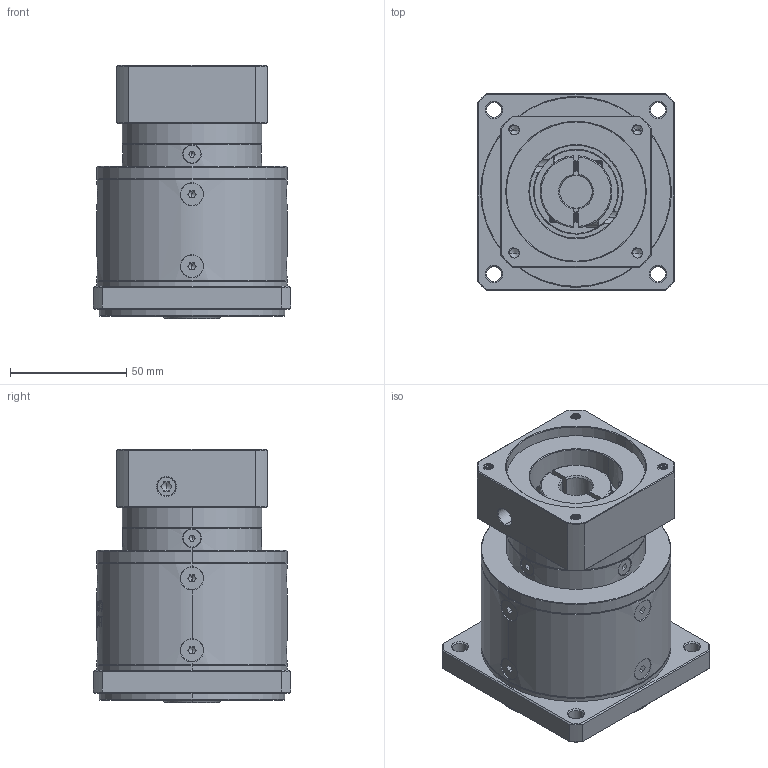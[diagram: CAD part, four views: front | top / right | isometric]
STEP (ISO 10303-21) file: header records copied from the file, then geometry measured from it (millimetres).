
FILE_DESCRIPTION (( 'STEP AP214' ), '1' );
FILE_NAME ('ZF080-K15-L2-P2-14-60-75-M5.step', '2023-08-19T06:59:10', ( '' ), ( '' ), 'SwSTEP 2.0', 'SolidWorks 2016', '' );
FILE_SCHEMA (( 'AUTOMOTIVE_DESIGN' ));
Length unit declared in the file: millimetre
Products named in the file (1): ZF080-K15-L2-P2-14-60-75-M5
Bounding box: 85 x 85 x 109 mm (x, y, z)
Volume: 464447.2 mm3; surface area: 69194.4 mm2
Topology: 18 solids, 18 shells, 2275 faces, 6005 edges, 3831 vertices
Faces by surface type: plane 1123, cylinder 401, bspline 390, cone 321, torus 40
Entity records: 120345 total; most frequent: CARTESIAN_POINT 43928, ORIENTED_EDGE 11938, DIRECTION 8961, EDGE_CURVE 5969, VERTEX_POINT 3831, LINE 3181, VECTOR 3181, AXIS2_PLACEMENT_3D 2890
